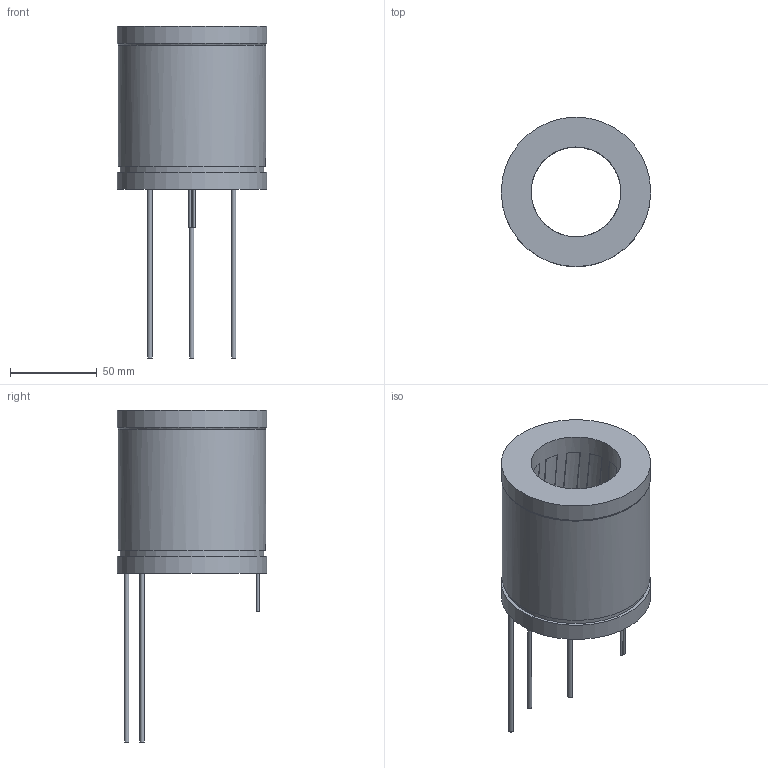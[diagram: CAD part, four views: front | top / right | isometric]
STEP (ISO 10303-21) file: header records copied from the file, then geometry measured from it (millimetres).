
FILE_DESCRIPTION(/* description */ (''),/* implementation_level */ '2;1');
FILE_NAME(/* name */ '154564.stp',/* time_stamp */ '2025-02-13T14:24:56+01:00',/* author */ ('Niklas.Fischer'),/* organization */ (''),/* preprocessor_version */ 'ST-DEVELOPER v20',/* originating_system */ 'Autodesk Inventor 2024',/* authorisation */ '');
FILE_SCHEMA (('AUTOMOTIVE_DESIGN { 1 0 10303 214 3 1 1 }'));
Length unit declared in the file: millimetre
Products named in the file (1): 154564
Bounding box: 86 x 86 x 191 mm (x, y, z)
Volume: 338730.6 mm3; surface area: 51151.4 mm2
Topology: 1 solids, 1 shells, 81 faces, 179 edges, 119 vertices
Faces by surface type: bspline 36, plane 34, cylinder 10, cone 1
Full cylindrical faces by diameter (mm): 1.55 x2, 2.5 x3, 51.7 x1, 82.5 x1, 84.9 x1, 86 x2
Entity records: 2935 total; most frequent: CARTESIAN_POINT 1285, ORIENTED_EDGE 358, DIRECTION 196, EDGE_CURVE 179, B_SPLINE_CURVE_WITH_KNOTS 121, VERTEX_POINT 119, EDGE_LOOP 102, AXIS2_PLACEMENT_3D 92
